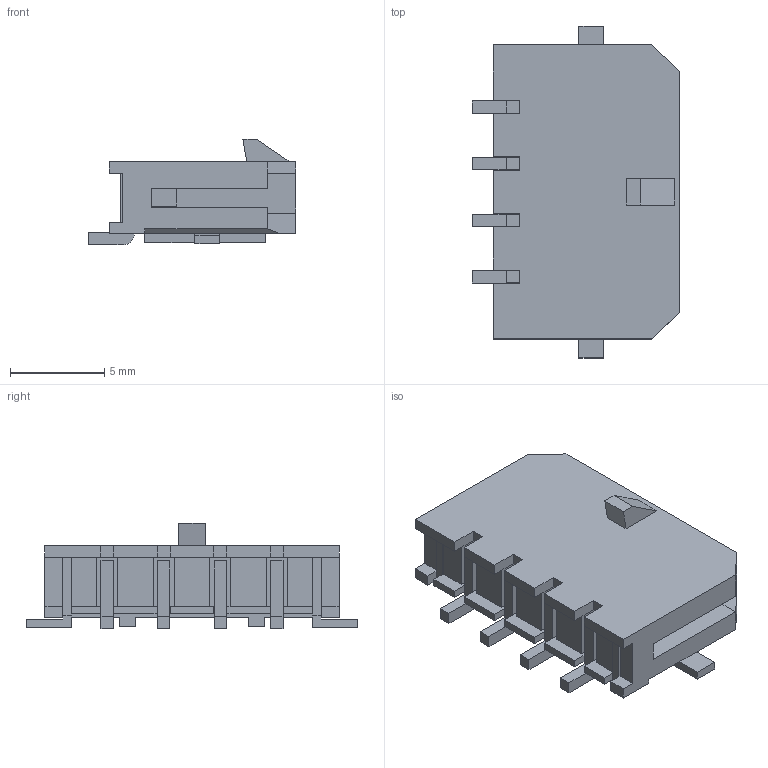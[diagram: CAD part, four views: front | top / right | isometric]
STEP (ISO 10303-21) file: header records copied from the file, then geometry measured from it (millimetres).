
FILE_DESCRIPTION(/* description */ (''),/* implementation_level */ '2;1');
FILE_NAME(/* name */ 'E:\工作文件\重新\3.0\MX3.0\05-DL30004（单排）\HC-MX3.0-NAWT-05(卧贴-HCTL)\HC-MX3.0-4AWT-05(卧贴-HCTL).stp',/* time_stamp */ '2024-03-14T09:38:00+08:00',/* author */ ('admin'),/* organization */ (''),/* preprocessor_version */ 'ST-DEVELOPER v18.1',/* originating_system */ 'Autodesk Inventor 2021',/* authorisation */ '');
FILE_SCHEMA (('AUTOMOTIVE_DESIGN { 1 0 10303 214 3 1 1 }'));
Length unit declared in the file: millimetre
Products named in the file (1): HC-MX3.0-4AWT-05(卧贴-HCTL)
Bounding box: 11 x 17.6 x 5.6 mm (x, y, z)
Volume: 353.9 mm3; surface area: 1010 mm2
Topology: 1 solids, 3 shells, 267 faces, 720 edges, 472 vertices
Faces by surface type: plane 263, cylinder 4
Entity records: 8360 total; most frequent: CARTESIAN_POINT 1460, ORIENTED_EDGE 1440, DIRECTION 1264, EDGE_CURVE 720, LINE 712, VECTOR 712, VERTEX_POINT 472, EDGE_LOOP 280
